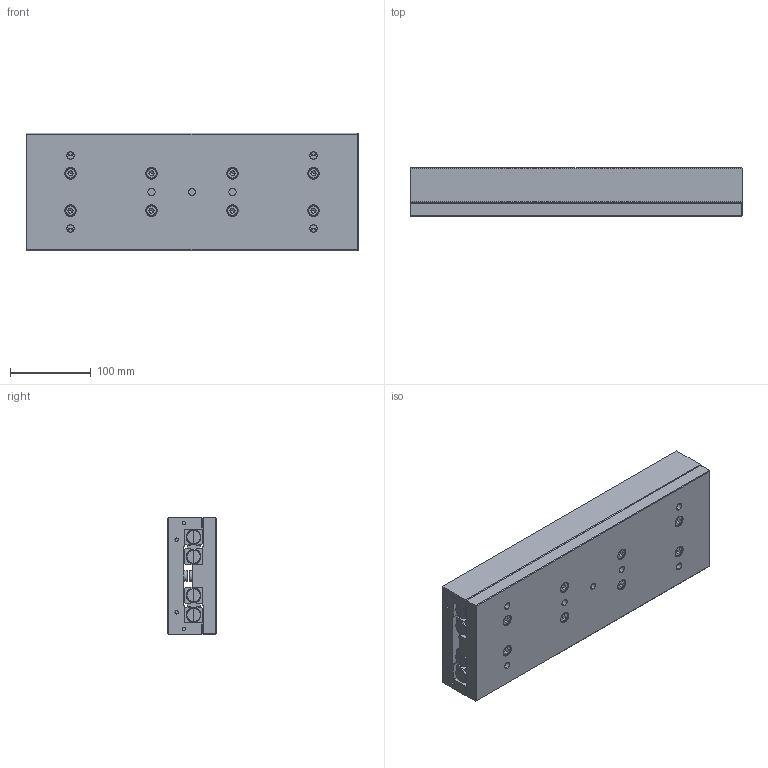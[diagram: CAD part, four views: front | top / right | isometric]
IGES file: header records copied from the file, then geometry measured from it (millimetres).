
Start section: SolidWorks IGES file using analytic representation for surfaces
Global section: file name: C:\Documents and Settings\IanO.IANOHOME\My Documents\Wix and Auto CAD Work\CAD Models\Parametric Models\Auto Models\L1020\L1020_IGES\L1020.145-410.igs; native system: SolidWorks 2009; preprocessor: SolidWorks 2009; author: IanO; date: 110922.163159; units: millimetre
Bounding box: 410 x 60 x 145 mm (x, y, z)
Surface area: 559225.4 mm2 (no closed solid volume)
Topology: 0 solids, 0 shells, 1506 faces, 22016 edges, 21976 vertices
Faces by surface type: bspline 962, revolution 544
